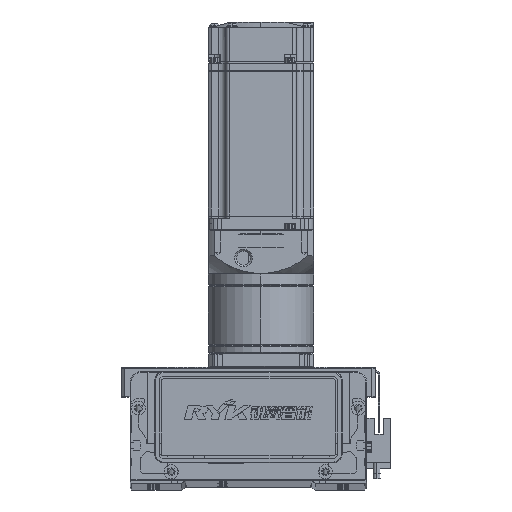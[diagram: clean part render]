
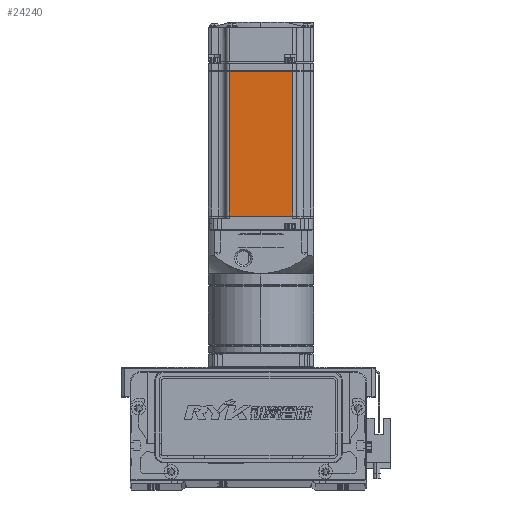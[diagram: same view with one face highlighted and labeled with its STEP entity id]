
A CAD part, top view. The second image highlights one B-rep face of the part: STEP entity #24240.
In plain terms, the highlighted planar face has unit normal (0, 0, 1).
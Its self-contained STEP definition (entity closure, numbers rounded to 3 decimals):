
#4350 = LINE ( 'NONE', #56751, #76508 ) ;
#4910 = EDGE_CURVE ( 'NONE', #48685, #64173, #23241, .T. ) ;
#6729 = DIRECTION ( 'NONE',  ( -1., 0., 0. ) ) ;
#9595 = CARTESIAN_POINT ( 'NONE',  ( -7.75, -18., 30. ) ) ;
#9727 = DIRECTION ( 'NONE',  ( 0., 0., 1. ) ) ;
#11063 = CARTESIAN_POINT ( 'NONE',  ( -90.45, 18., 30. ) ) ;
#14059 = CARTESIAN_POINT ( 'NONE',  ( -6.5, -18., 30. ) ) ;
#14836 = DIRECTION ( 'NONE',  ( -1., 0., 0. ) ) ;
#15467 = ORIENTED_EDGE ( 'NONE', *, *, #4910, .T. ) ;
#15825 = DIRECTION ( 'NONE',  ( 0., -1., 0. ) ) ;
#17014 = PLANE ( 'NONE',  #69584 ) ;
#23241 = LINE ( 'NONE', #23455, #44073 ) ;
#23427 = CARTESIAN_POINT ( 'NONE',  ( -7.75, 0., 30. ) ) ;
#23455 = CARTESIAN_POINT ( 'NONE',  ( -90.45, 0., 30. ) ) ;
#24240 = ADVANCED_FACE ( 'NONE', ( #43692 ), #17014, .T. ) ;
#24963 = EDGE_CURVE ( 'NONE', #43298, #48685, #4350, .T. ) ;
#26124 = VECTOR ( 'NONE', #6729, 1000. ) ;
#26864 = EDGE_CURVE ( 'NONE', #33165, #64173, #39311, .T. ) ;
#32615 = EDGE_CURVE ( 'NONE', #43298, #33165, #71356, .T. ) ;
#33165 = VERTEX_POINT ( 'NONE', #9595 ) ;
#37510 = DIRECTION ( 'NONE',  ( 0., -1., 0. ) ) ;
#39311 = LINE ( 'NONE', #14059, #26124 ) ;
#42990 = CARTESIAN_POINT ( 'NONE',  ( -90.45, -18., 30. ) ) ;
#43298 = VERTEX_POINT ( 'NONE', #56168 ) ;
#43692 = FACE_OUTER_BOUND ( 'NONE', #90458, .T. ) ;
#44073 = VECTOR ( 'NONE', #15825, 1000. ) ;
#46118 = ORIENTED_EDGE ( 'NONE', *, *, #26864, .F. ) ;
#48685 = VERTEX_POINT ( 'NONE', #11063 ) ;
#52755 = VECTOR ( 'NONE', #37510, 1000. ) ;
#54464 = ORIENTED_EDGE ( 'NONE', *, *, #24963, .T. ) ;
#56168 = CARTESIAN_POINT ( 'NONE',  ( -7.75, 18., 30. ) ) ;
#56751 = CARTESIAN_POINT ( 'NONE',  ( -6.5, 18., 30. ) ) ;
#64173 = VERTEX_POINT ( 'NONE', #42990 ) ;
#69584 = AXIS2_PLACEMENT_3D ( 'NONE', #87453, #9727, #73941 ) ;
#71356 = LINE ( 'NONE', #23427, #52755 ) ;
#73941 = DIRECTION ( 'NONE',  ( 1., 0., 0. ) ) ;
#76508 = VECTOR ( 'NONE', #14836, 1000. ) ;
#87453 = CARTESIAN_POINT ( 'NONE',  ( -6.5, -25., 30. ) ) ;
#88360 = ORIENTED_EDGE ( 'NONE', *, *, #32615, .F. ) ;
#90458 = EDGE_LOOP ( 'NONE', ( #88360, #54464, #15467, #46118 ) ) ;
